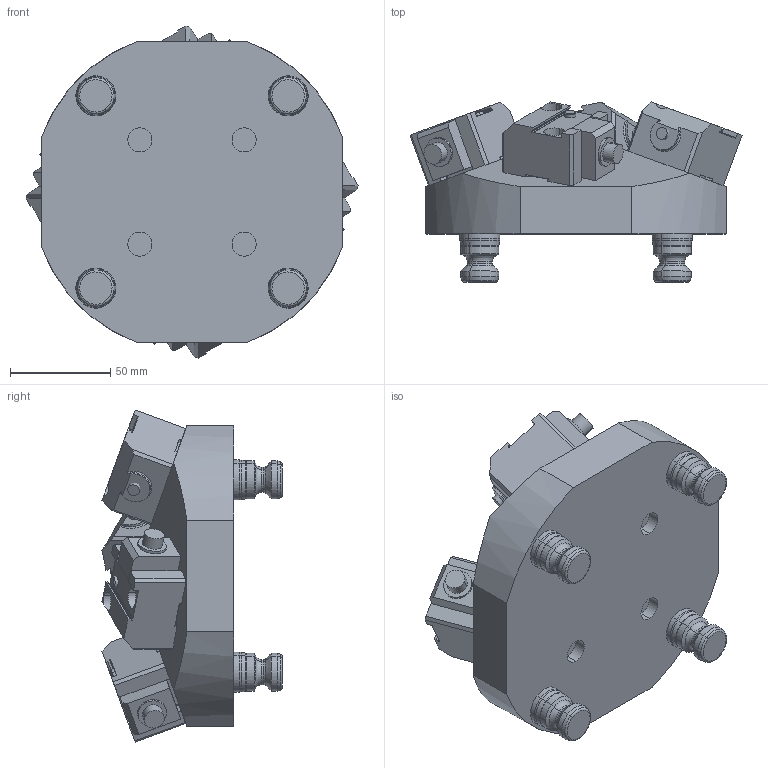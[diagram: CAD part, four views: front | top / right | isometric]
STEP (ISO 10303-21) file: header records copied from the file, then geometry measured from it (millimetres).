
FILE_DESCRIPTION (( 'STEP AP214' ), '1' );
FILE_NAME ('D_R96-P4DM25.STEP', '2020-03-13T21:54:06', ( '' ), ( '' ), 'SwSTEP 2.0', 'SolidWorks 2018', '' );
FILE_SCHEMA (( 'AUTOMOTIVE_DESIGN' ));
Length unit declared in the file: millimetre
Products named in the file (7): D_DM25-1; D_DM25-2; D_DM25; D_P4DM25; D_PS20F_HARD TURN; D_R96-P4DM25; D_DM25-3_LP6
Assembly tree (12 placements, depth 3):
  D_R96-P4DM25
    D_P4DM25
    D_PS20F_HARD TURN  x4
    D_DM25  x4
      D_DM25-1
      D_DM25-2
      D_DM25-3_LP6
Bounding box: 165.78 x 89.88 x 165.78 mm (x, y, z)
Volume: 793560 mm3; surface area: 127680.4 mm2
Topology: 17 solids, 17 shells, 814 faces, 1864 edges, 1144 vertices
Faces by surface type: cylinder 308, plane 278, cone 160, torus 68
Entity records: 10842 total; most frequent: DIRECTION 1912, CARTESIAN_POINT 1710, ORIENTED_EDGE 1570, EDGE_CURVE 785, AXIS2_PLACEMENT_3D 762, VERTEX_POINT 484, EDGE_LOOP 425, LINE 388
